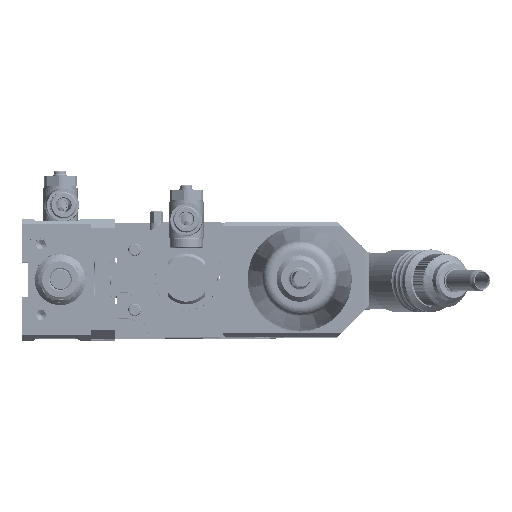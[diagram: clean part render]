
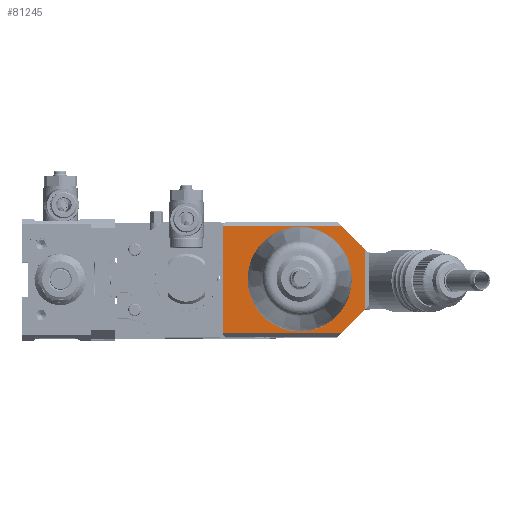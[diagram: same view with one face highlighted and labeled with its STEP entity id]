
A CAD part, top view. The second image highlights one B-rep face of the part: STEP entity #81245.
In plain terms, the highlighted planar face has unit normal (0, 0, 1) by its records, which use the part's own axes.
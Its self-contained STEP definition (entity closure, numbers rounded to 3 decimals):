
#4005=LINE('',#200936,#9959);
#4957=LINE('',#204492,#10911);
#4970=LINE('',#204520,#10924);
#4995=LINE('',#204578,#10949);
#4996=LINE('',#204580,#10950);
#5000=LINE('',#204587,#10954);
#9959=VECTOR('',#97668,46.);
#10911=VECTOR('',#99966,14.142);
#10924=VECTOR('',#99987,14.142);
#10949=VECTOR('',#100044,26.);
#10950=VECTOR('',#100047,51.);
#10954=VECTOR('',#100055,51.);
#17054=FACE_BOUND('',#25155,.T.);
#20066=FACE_OUTER_BOUND('',#25154,.T.);
#25154=EDGE_LOOP('',(#60075,#60076,#60077,#60078,#60079,#60080));
#25155=EDGE_LOOP('',(#60081));
#29756=CIRCLE('',#87013,18.4);
#34005=VERTEX_POINT('',#200933);
#34006=VERTEX_POINT('',#200935);
#34888=VERTEX_POINT('',#204489);
#34889=VERTEX_POINT('',#204491);
#34899=VERTEX_POINT('',#204517);
#34900=VERTEX_POINT('',#204519);
#34919=VERTEX_POINT('',#204588);
#42653=EDGE_CURVE('',#34005,#34006,#4005,.T.);
#43961=EDGE_CURVE('',#34889,#34888,#4957,.T.);
#43975=EDGE_CURVE('',#34900,#34899,#4970,.T.);
#44005=EDGE_CURVE('',#34889,#34899,#4995,.T.);
#44006=EDGE_CURVE('',#34900,#34005,#4996,.T.);
#44010=EDGE_CURVE('',#34006,#34888,#5000,.T.);
#44011=EDGE_CURVE('',#34919,#34919,#29756,.T.);
#60075=ORIENTED_EDGE('',*,*,#43961,.T.);
#60076=ORIENTED_EDGE('',*,*,#44010,.F.);
#60077=ORIENTED_EDGE('',*,*,#42653,.F.);
#60078=ORIENTED_EDGE('',*,*,#44006,.F.);
#60079=ORIENTED_EDGE('',*,*,#43975,.T.);
#60080=ORIENTED_EDGE('',*,*,#44005,.F.);
#60081=ORIENTED_EDGE('',*,*,#44011,.T.);
#73016=PLANE('',#87012);
#81245=ADVANCED_FACE('',(#20066,#17054),#73016,.F.);
#87012=AXIS2_PLACEMENT_3D('',#204586,#100053,#100054);
#87013=AXIS2_PLACEMENT_3D('',#204589,#100056,#100057);
#97668=DIRECTION('',(0.,1.,0.));
#99966=DIRECTION('',(-0.707,0.707,0.));
#99987=DIRECTION('',(0.707,0.707,0.));
#100044=DIRECTION('',(0.,-1.,0.));
#100047=DIRECTION('',(-1.,0.,0.));
#100053=DIRECTION('center_axis',(0.,0.,
-1.));
#100054=DIRECTION('ref_axis',(1.,0.,0.));
#100055=DIRECTION('',(1.,0.,0.));
#100056=DIRECTION('center_axis',(0.,0.,
-1.));
#100057=DIRECTION('ref_axis',(-1.,0.,
0.));
#200933=CARTESIAN_POINT('',(64.,-23.,289.));
#200935=CARTESIAN_POINT('',(64.,23.,289.));
#200936=CARTESIAN_POINT('',(64.,-25.,289.));
#204489=CARTESIAN_POINT('',(115.,23.,289.));
#204491=CARTESIAN_POINT('',(125.,13.,289.));
#204492=CARTESIAN_POINT('',(121.875,16.125,289.));
#204517=CARTESIAN_POINT('',(125.,-13.,289.));
#204519=CARTESIAN_POINT('',(115.,-23.,289.));
#204520=CARTESIAN_POINT('',(114.875,-23.125,289.));
#204578=CARTESIAN_POINT('',(125.,-12.5,289.));
#204580=CARTESIAN_POINT('',(79.75,-23.,289.));
#204586=CARTESIAN_POINT('Origin',(95.5,0.,
289.));
#204587=CARTESIAN_POINT('',(111.25,23.,289.));
#204588=CARTESIAN_POINT('',(78.6,0.,289.));
#204589=CARTESIAN_POINT('Origin',(97.,0.,
289.));
